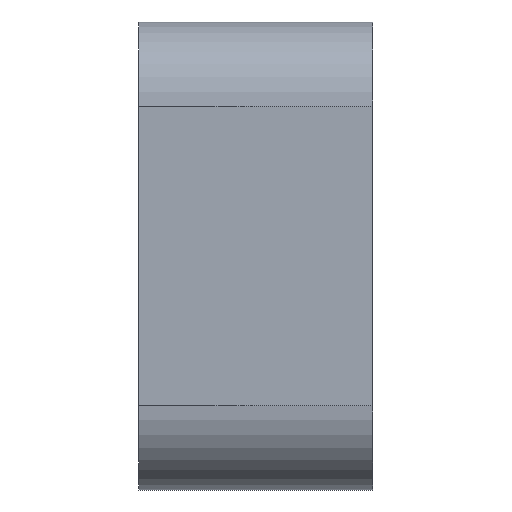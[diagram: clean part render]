
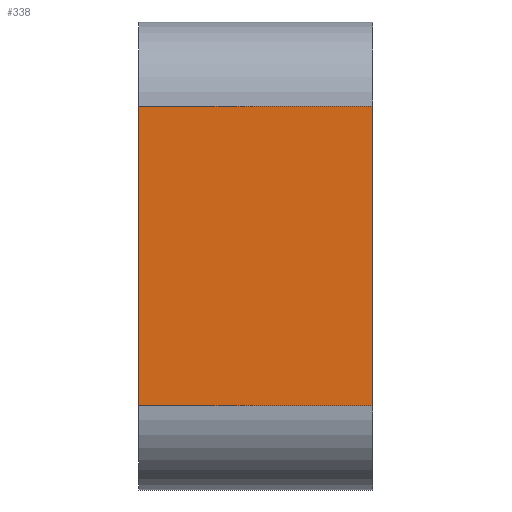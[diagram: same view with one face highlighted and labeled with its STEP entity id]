
A CAD part, left-side view. The second image highlights one B-rep face of the part: STEP entity #338.
In plain terms, the highlighted planar face has unit normal (-1, 0, 0).
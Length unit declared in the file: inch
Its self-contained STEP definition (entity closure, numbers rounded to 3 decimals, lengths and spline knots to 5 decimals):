
#50=FACE_OUTER_BOUND('',#68,.T.);
#68=EDGE_LOOP('',(#259,#260,#261,#262));
#96=LINE('',#554,#128);
#97=LINE('',#557,#129);
#98=LINE('',#559,#130);
#99=LINE('',#560,#131);
#128=VECTOR('',#452,0.3937);
#129=VECTOR('',#455,0.3937);
#130=VECTOR('',#456,0.3937);
#131=VECTOR('',#457,0.3937);
#159=VERTEX_POINT('',#547);
#162=VERTEX_POINT('',#552);
#163=VERTEX_POINT('',#556);
#164=VERTEX_POINT('',#558);
#202=EDGE_CURVE('',#162,#159,#96,.T.);
#203=EDGE_CURVE('',#163,#162,#97,.T.);
#204=EDGE_CURVE('',#164,#163,#98,.T.);
#205=EDGE_CURVE('',#159,#164,#99,.T.);
#259=ORIENTED_EDGE('',*,*,#202,.F.);
#260=ORIENTED_EDGE('',*,*,#203,.F.);
#261=ORIENTED_EDGE('',*,*,#204,.F.);
#262=ORIENTED_EDGE('',*,*,#205,.F.);
#323=PLANE('',#380);
#338=ADVANCED_FACE('',(#50),#323,.T.);
#380=AXIS2_PLACEMENT_3D('',#555,#453,#454);
#452=DIRECTION('',(0.,1.,0.));
#453=DIRECTION('center_axis',(-1.,0.,0.));
#454=DIRECTION('ref_axis',(0.,0.,1.));
#455=DIRECTION('',(0.,0.,-1.));
#456=DIRECTION('',(0.,-1.,0.));
#457=DIRECTION('',(0.,0.,1.));
#547=CARTESIAN_POINT('',(-1.,1.,-0.64));
#552=CARTESIAN_POINT('',(-1.,0.,-0.64));
#554=CARTESIAN_POINT('',(-1.,0.,-0.64));
#555=CARTESIAN_POINT('Origin',(-1.,0.,-1.));
#556=CARTESIAN_POINT('',(-1.,0.,0.64));
#557=CARTESIAN_POINT('',(-1.,0.,1.));
#558=CARTESIAN_POINT('',(-1.,1.,0.64));
#559=CARTESIAN_POINT('',(-1.,0.,0.64));
#560=CARTESIAN_POINT('',(-1.,1.,1.));
